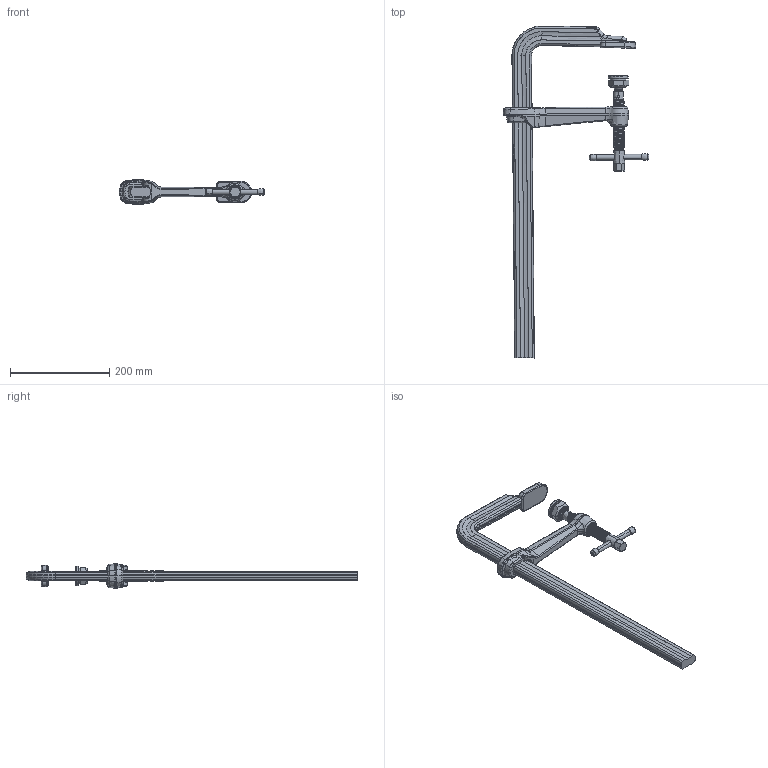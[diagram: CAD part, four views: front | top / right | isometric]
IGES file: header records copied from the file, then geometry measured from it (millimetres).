
Start section: ZWSOFT
Global section: file name: STB50M_4800_18.igs; native system: ZW3D; preprocessor: 1.0; author: ZW3D; organization: ZWSOFT; date: 130819.103533; units: millimetre
Bounding box: 293.84 x 669.65 x 50 mm (x, y, z)
Surface area: 163427.3 mm2 (no closed solid volume)
Topology: 0 solids, 0 shells, 1204 faces, 6612 edges, 6597 vertices
Faces by surface type: bspline 1204
